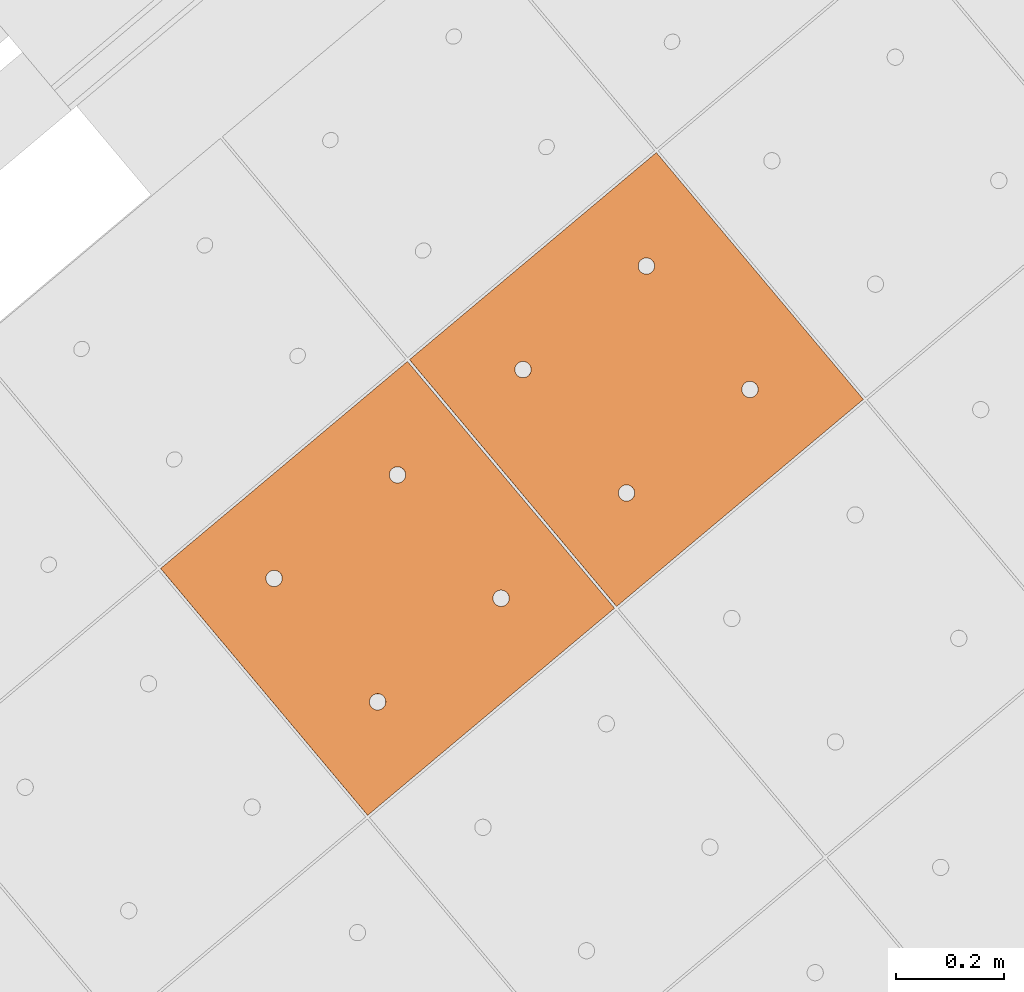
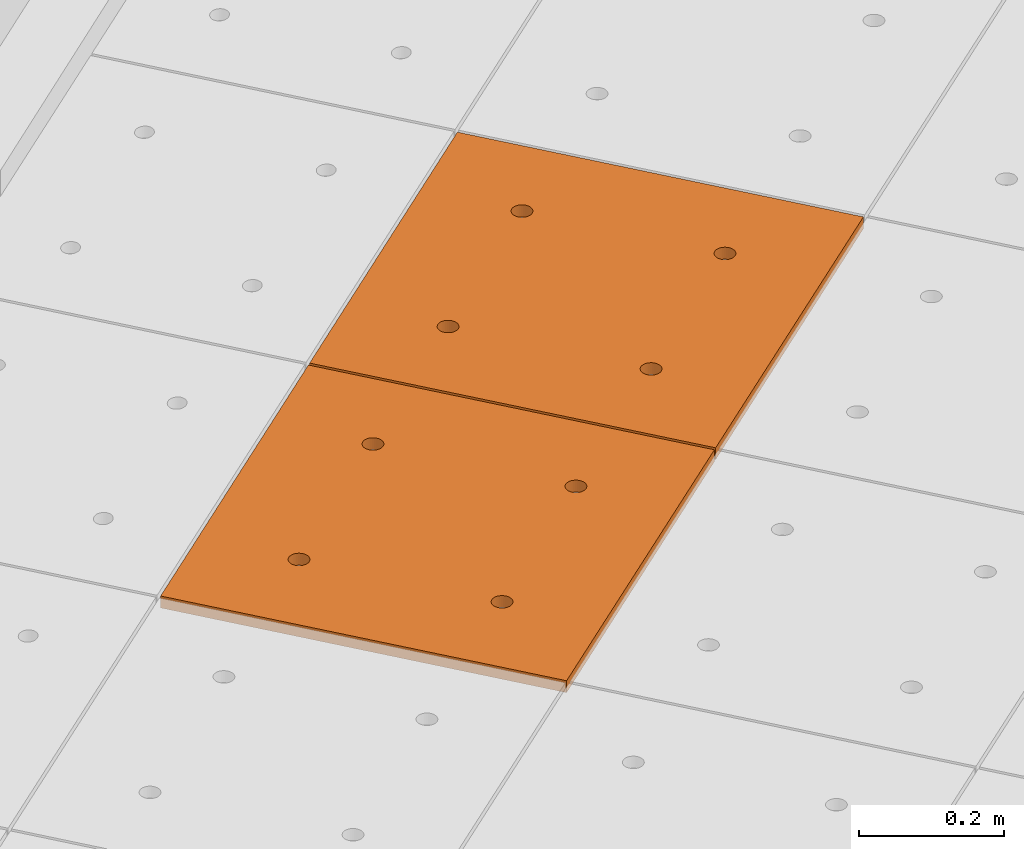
# One storey, part 176 of 338: 2 proxies, 1 element without a shape of its own.
"""IFC2X3 building model written with IfcOpenShell, lengths in millimetres."""

import ifcopenshell
import ifcopenshell.guid

model = None  # the IFC model being written
_history = None  # IfcOwnerHistory: only IFC2X3 demands one
_inside = {}  # id of a spatial element -> (the spatial element, [elements in it])
_under = {}  # id of a project, library or spatial element -> (it, [spatial elements below it])
_declared = {}  # id of a project -> (the project, [libraries it declares])
_typed = {}  # id of a type object -> (the type object, [elements of that type])
_made_of = {}  # id of a material, layer set ... -> (it, [elements and type objects made of it])


def new_model(schema):
    """Start an empty IFC model of exactly this schema.

    Asked for "IFC4X3", IfcOpenShell would pick the latest addendum, in which some entities
    have other attributes; the version numbers below select the first issue.
    IFC2X3 requires an IfcOwnerHistory on every rooted entity: one is made here for all.
    """
    global model, _history
    if schema == "IFC4X3":
        model = ifcopenshell.file(schema_version=(4, 3, 0, 0))
    else:
        model = ifcopenshell.file(schema=schema)
    _inside.clear()
    _under.clear()
    _declared.clear()
    _typed.clear()
    _made_of.clear()
    _history = None
    if model.schema == "IFC2X3":
        org = make("IfcOrganization", Name="unknown")
        user = make(
            "IfcPersonAndOrganization",
            ThePerson=make("IfcPerson", FamilyName="unknown"),
            TheOrganization=org,
        )
        app = make(
            "IfcApplication",
            ApplicationDeveloper=org,
            Version="unknown",
            ApplicationFullName="unknown",
            ApplicationIdentifier="unknown",
        )
        _history = make(
            "IfcOwnerHistory",
            OwningUser=user,
            OwningApplication=app,
            ChangeAction="ADDED",
            CreationDate=0,
        )
    return model


def make(cls, **values):
    """One entity of the class cls with the attributes given. An attribute that is None is left unset."""
    return model.create_entity(
        cls, **{name: value for name, value in values.items() if value is not None}
    )


def entity(cls, *values):
    """Any entity or typed value of the class cls, its attributes in the order of the schema. None: left unset."""
    e = model.create_entity(cls)
    for i, value in enumerate(values):
        if value is not None:
            e[i] = value
    return e


def rooted(cls, **values):
    """An entity with a GlobalId (a new one), such as an element, a storey or a relation."""
    return make(cls, GlobalId=ifcopenshell.guid.new(), OwnerHistory=_history, **values)


def si_unit(unit_type, name, prefix=None):
    """IfcSIUnit, for example si_unit("LENGTHUNIT", "METRE", prefix="MILLI")."""
    return make("IfcSIUnit", UnitType=unit_type, Prefix=prefix, Name=name)


def converted_unit(unit_type, name, factor, base, dimensions=None, offset=None):
    """IfcConversionBasedUnit, such as the inch: factor (a typed value) times the base unit."""
    return make(
        "IfcConversionBasedUnit"
        if offset is None
        else "IfcConversionBasedUnitWithOffset",
        ConversionOffset=offset,
        Dimensions=None
        if dimensions is None
        else entity("IfcDimensionalExponents", *dimensions),
        UnitType=unit_type,
        Name=name,
        ConversionFactor=make(
            "IfcMeasureWithUnit", ValueComponent=factor, UnitComponent=base
        ),
    )


def derived_unit(unit_type, elements):
    """IfcDerivedUnit: a product of units, each with its exponent."""
    return make(
        "IfcDerivedUnit",
        Elements=[
            make("IfcDerivedUnitElement", Unit=unit, Exponent=power)
            for unit, power in elements
        ],
        UnitType=unit_type,
    )


def money_unit(currency):
    """IfcMonetaryUnit."""
    return make("IfcMonetaryUnit", Currency=currency)


def assignment(units):
    """IfcUnitAssignment: the units of a project."""
    return None if units is None else make("IfcUnitAssignment", Units=units)


def point(xyz):
    """IfcCartesianPoint."""
    return None if xyz is None else make("IfcCartesianPoint", Coordinates=xyz)


def direction(xyz):
    """IfcDirection."""
    return None if xyz is None else make("IfcDirection", DirectionRatios=xyz)


def frame(location, z_axis=None, x_axis=None):
    """IfcAxis2Placement3D, a coordinate frame: its origin and axes. An axis left out is left unset."""
    return make(
        "IfcAxis2Placement3D",
        Location=point(location),
        Axis=direction(z_axis),
        RefDirection=direction(x_axis),
    )


def origin_with_axes():
    """The frame at (0, 0, 0) with the z axis (0, 0, 1) and the x axis (1, 0, 0) written out."""
    return frame((0.0, 0.0, 0.0), z_axis=(0.0, 0.0, 1.0), x_axis=(1.0, 0.0, 0.0))


def place(relative_to, where):
    """IfcLocalPlacement: puts the frame where relative to a parent placement (None: the world)."""
    return make(
        "IfcLocalPlacement", PlacementRelTo=relative_to, RelativePlacement=where
    )


def context(
    kind, dimensions, precision=None, world=None, true_north=None, identifier=None
):
    """IfcGeometricRepresentationContext, for example the 3D "Model" context."""
    return make(
        "IfcGeometricRepresentationContext",
        ContextIdentifier=identifier,
        ContextType=kind,
        CoordinateSpaceDimension=dimensions,
        Precision=precision,
        WorldCoordinateSystem=world,
        TrueNorth=true_north,
    )


def subcontext(parent, identifier, kind, view, scale=None):
    """IfcGeometricRepresentationSubContext, for example "Body" below "Model"."""
    return make(
        "IfcGeometricRepresentationSubContext",
        ContextIdentifier=identifier,
        ContextType=kind,
        ParentContext=parent,
        TargetScale=scale,
        TargetView=view,
    )


def project(units=None, contexts=None):
    """IfcProject with its units and contexts."""
    return rooted(
        "IfcProject",
        Name="project",
        RepresentationContexts=contexts,
        UnitsInContext=assignment(units),
    )


def spatial(cls, under=None, at=None, **own):
    """A site, building, storey or space (cls), placed at a placement, below another one or the project."""
    s = rooted(cls, ObjectPlacement=at, **own)
    if under is not None:
        _under.setdefault(under.id(), (under, []))[1].append(s)
    return s


def faces_of(points, faces, orient=None, outer=None):
    """IfcFace entities. A face is a list of loops; a loop is a list of indices into points, from 0.

    orient and outer hold one flag for each loop. By default every Orientation is true, the
    first loop of a face is its IfcFaceOuterBound and the others are IfcFaceBound.
    """
    made = []
    for i, loops in enumerate(faces):
        bounds = []
        for j, loop in enumerate(loops):
            is_outer = j == 0 if outer is None else outer[i][j]
            bounds.append(
                make(
                    "IfcFaceOuterBound" if is_outer else "IfcFaceBound",
                    Bound=make("IfcPolyLoop", Polygon=[points[k] for k in loop]),
                    Orientation=True if orient is None else orient[i][j],
                )
            )
        made.append(make("IfcFace", Bounds=bounds))
    return made


def faceted_brep(points, faces, orient=None, outer=None, voids=None):
    """IfcFacetedBrep: a solid bounded by flat faces; with voids (closed shells), ...WithVoids."""
    shared = [point(p) for p in points]
    hull = make("IfcClosedShell", CfsFaces=faces_of(shared, faces, orient, outer))
    if voids is None:
        return make("IfcFacetedBrep", Outer=hull)
    return make(
        "IfcFacetedBrepWithVoids",
        Outer=hull,
        Voids=[
            make(cls, CfsFaces=faces_of(shared, fs, o, b)) for cls, fs, o, b in voids
        ],
    )


def shape(context_of_items, identifier, shape_type, items):
    """IfcShapeRepresentation: the items that make up one representation, for example the "Body"."""
    return make(
        "IfcShapeRepresentation",
        ContextOfItems=context_of_items,
        RepresentationIdentifier=identifier,
        RepresentationType=shape_type,
        Items=items,
    )


def source(mapping_origin, context_of_items, identifier, shape_type, items):
    """IfcRepresentationMap: a shape defined once, which mapped items show again and again."""
    return make(
        "IfcRepresentationMap",
        MappingOrigin=mapping_origin,
        MappedRepresentation=shape(context_of_items, identifier, shape_type, items),
    )


def transform(
    local_origin,
    x_axis=None,
    y_axis=None,
    z_axis=None,
    scale=None,
    scale2=None,
    scale3=None,
    uniform=True,
):
    """IfcCartesianTransformationOperator3D, or its non-uniform kind. x_axis, y_axis, z_axis: its Axis1, 2, 3."""
    if uniform:
        return make(
            "IfcCartesianTransformationOperator3D",
            Axis1=direction(x_axis),
            Axis2=direction(y_axis),
            LocalOrigin=point(local_origin),
            Scale=scale,
            Axis3=direction(z_axis),
        )
    return make(
        "IfcCartesianTransformationOperator3DnonUniform",
        Axis1=direction(x_axis),
        Axis2=direction(y_axis),
        LocalOrigin=point(local_origin),
        Scale=scale,
        Axis3=direction(z_axis),
        Scale2=scale2,
        Scale3=scale3,
    )


def mapped(mapping_source, mapping_target):
    """IfcMappedItem: shows the shape of a source again, moved by a transform."""
    return make(
        "IfcMappedItem", MappingSource=mapping_source, MappingTarget=mapping_target
    )


def material(Name=None, Category=None):
    """IfcMaterial."""
    return make("IfcMaterial", Name=Name, Category=Category)


def made_of(thing, what):
    """Note that an element or type object is made of a material, layer set ...; save() writes the relation."""
    if what is not None:
        _made_of.setdefault(what.id(), (what, []))[1].append(thing)
    return thing


def type_object(cls, material=None, **own):
    """A type object (cls), such as IfcWallType, which elements share."""
    return made_of(rooted(cls, **own), material)


def type_shapes(of_type, sources):
    """Give a type object the sources (RepresentationMaps) that its elements show as mapped items."""
    of_type.RepresentationMaps = sources


def element(
    cls,
    number,
    at=None,
    inside=None,
    cuts=None,
    type_object=None,
    material=None,
    context=None,
    identifier="Body",
    shape_type=None,
    held_by="IfcProductDefinitionShape",
    body=None,
    shapes=None,
    **own,
):
    """One element of the class cls, such as IfcWall. Its Tag is "e" and its number.

    at: its placement. inside: the storey or other place that contains it. cuts: it is an
    opening in that element (IfcRelVoidsElement). A single representation is given by context,
    identifier, shape_type and body (its items); several are given by shapes. held_by: the class
    of the entity that holds the representations. save() writes the other relations.
    """
    e = rooted(cls, Tag="e%d" % number, ObjectPlacement=at, **own)
    if body is not None:
        shapes = [shape(context, identifier, shape_type, body)]
    if shapes is not None:
        e.Representation = make(held_by, Representations=shapes)
    if inside is not None:
        _inside.setdefault(inside.id(), (inside, []))[1].append(e)
    if cuts is not None:
        rooted(
            "IfcRelVoidsElement", RelatingBuildingElement=cuts, RelatedOpeningElement=e
        )
    if type_object is not None:
        _typed.setdefault(type_object.id(), (type_object, []))[1].append(e)
    return made_of(e, material)


def aggregate(whole, parts):
    """IfcRelAggregates: a whole, such as a stair, and the parts it consists of."""
    return rooted("IfcRelAggregates", RelatingObject=whole, RelatedObjects=parts)


def save(model, path):
    """Write the relations noted so far, then the file.

    IfcRelAggregates (storeys below a building ...), IfcRelContainedInSpatialStructure (elements
    in a storey), IfcRelDefinesByType, IfcRelAssociatesMaterial and IfcRelDeclares: one each for
    every whole, place, type object, material and project.
    """
    for whole, parts in _under.values():
        aggregate(whole, parts)
    for where, things in _inside.values():
        rooted(
            "IfcRelContainedInSpatialStructure",
            RelatedElements=things,
            RelatingStructure=where,
        )
    for kind, things in _typed.values():
        rooted("IfcRelDefinesByType", RelatedObjects=things, RelatingType=kind)
    for what, things in _made_of.values():
        rooted("IfcRelAssociatesMaterial", RelatedObjects=things, RelatingMaterial=what)
    for by, libraries in _declared.values():
        rooted("IfcRelDeclares", RelatingContext=by, RelatedDefinitions=libraries)
    model.write(path)


model = new_model("IFC2X3")

# Units and contexts
model_context = context("Model", 3, precision=0.01, world=origin_with_axes(), true_north=direction((0.0, 1.0)))
plan_context = context("Plan", 3, precision=0.01, world=origin_with_axes(), true_north=direction((0.0, 1.0)))
body_context = subcontext(model_context, "Body", "Model", "MODEL_VIEW")
ifc_project = project(units=[si_unit("LENGTHUNIT", "METRE", prefix="MILLI"), si_unit("AREAUNIT", "SQUARE_METRE"), si_unit("VOLUMEUNIT", "CUBIC_METRE"), converted_unit("PLANEANGLEUNIT", "DEGREE", entity("IfcPlaneAngleMeasure", 0.0174532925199), si_unit("PLANEANGLEUNIT", "RADIAN"), dimensions=[0, 0, 0, 0, 0, 0, 0]), money_unit("EUR"), converted_unit("TIMEUNIT", "Year", entity("IfcTimeMeasure", 31556926.0), si_unit("TIMEUNIT", "SECOND"), dimensions=[0, 0, 1, 0, 0, 0, 0]), si_unit("MASSUNIT", "GRAM", prefix="KILO"), si_unit("THERMODYNAMICTEMPERATUREUNIT", "DEGREE_CELSIUS"), si_unit("LUMINOUSINTENSITYUNIT", "LUMEN"), si_unit("ENERGYUNIT", "JOULE", prefix="MEGA"), derived_unit("THERMALCONDUCTANCEUNIT", [(si_unit("POWERUNIT", "WATT"), 1), (si_unit("LENGTHUNIT", "METRE"), -1), (si_unit("THERMODYNAMICTEMPERATUREUNIT", "KELVIN"), -1)]), derived_unit("SPECIFICHEATCAPACITYUNIT", [(si_unit("ENERGYUNIT", "JOULE"), 1), (si_unit("MASSUNIT", "GRAM", prefix="KILO"), -1), (si_unit("THERMODYNAMICTEMPERATUREUNIT", "KELVIN"), -1)]), derived_unit("MASSDENSITYUNIT", [(si_unit("MASSUNIT", "GRAM", prefix="KILO"), 1), (si_unit("VOLUMEUNIT", "CUBIC_METRE"), -1)])], contexts=[model_context, plan_context])

# Site, building, storey
site_placement = place(None, origin_with_axes())
site = spatial("IfcSite", under=ifc_project, at=site_placement, Name="Fortuinstraat Woensdrecht", CompositionType="ELEMENT")
building_placement = place(site_placement, origin_with_axes())
building = spatial("IfcBuilding", under=site, at=building_placement, Name="IKC Fortuna", CompositionType="ELEMENT")
storey_placement = place(building_placement, origin_with_axes())
storey = spatial("IfcBuildingStorey", under=building, at=storey_placement, Name="00 begane grond", CompositionType="ELEMENT", Elevation=0.0)

# Covering, proxies
covering_type = type_object("IfcCoveringType", Name="Curtain Wall Type", PredefinedType="CEILING")
covering_placement = place(storey_placement, frame((15863.124366, 4456.31398675, 4619.99995334), z_axis=(0.0, 0.0, 1.0), x_axis=(1.0, 0.0, 0.0)))
covering = element("IfcCovering", 1, at=covering_placement, inside=storey, type_object=covering_type, Name="45_Plafondafwerking_P01", PredefinedType="CEILING")
ifc_material = material(Name="Gipsplaat")
building_element_proxy_type = type_object("IfcBuildingElementProxyType", Name="Main Panel 600 x 600 x 20", PredefinedType="NOTDEFINED")
shared_shape = source(origin_with_axes(), body_context, "Body", "Brep", [
    faceted_brep([(2.50000262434, 2.50000269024, -10.0), (299.999999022, 2.50000269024, -10.0), (299.999999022, 2.50000269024, 10.0), (2.50000262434, 2.50000269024, 10.0), (2.50000262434, 300.000003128, -10.0), (2.50000262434, 597.500003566, -10.0), (299.999999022, 597.500003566, -10.0), (597.499995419, 597.500003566, -10.0), (597.499995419, 300.000003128, -10.0), (597.499995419, 2.50000269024, -10.0), (166.250000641, 450.062333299, -10.0), (165.794233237, 452.647118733, -10.0), (164.896546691, 455.113492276, -10.0), (163.584216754, 457.386514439, -10.0), (161.897117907, 459.397120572, -10.0), (159.886511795, 461.084219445, -10.0), (157.613489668, 462.396549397, -10.0), (155.147116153, 463.294235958, -10.0), (152.56233076, 463.750003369, -10.0), (149.937670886, 463.750003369, -10.0), (147.352885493, 463.294235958, -10.0), (144.886511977, 462.396549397, -10.0), (142.61348985, 461.084219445, -10.0), (140.602883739, 459.397120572, -10.0), (138.915784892, 457.386514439, -10.0), (137.603454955, 455.113492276, -10.0), (136.705768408, 452.647118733, -10.0), (136.250001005, 450.062333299, -10.0), (136.250001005, 448.750003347, -10.0), (136.250001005, 447.437673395, -10.0), (136.705768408, 444.852887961, -10.0), (137.603454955, 442.386514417, -10.0), (138.915784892, 440.113492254, -10.0), (140.602883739, 438.102886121, -10.0), (142.61348985, 436.415787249, -10.0), (144.886511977, 435.103457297, -10.0), (147.352885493, 434.205770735, -10.0), (149.937670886, 433.750003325, -10.0), (152.56233076, 433.750003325, -10.0), (155.147116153, 434.205770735, -10.0), (157.613489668, 435.103457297, -10.0), (159.886511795, 436.415787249, -10.0), (161.897117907, 438.102886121, -10.0), (163.584216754, 440.113492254, -10.0), (164.896546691, 442.386514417, -10.0), (165.794233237, 444.852887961, -10.0), (166.250000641, 447.437673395, -10.0), (463.749997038, 450.062333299, -10.0), (463.294229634, 452.647118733, -10.0), (462.396543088, 455.113492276, -10.0), (461.084213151, 457.386514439, -10.0), (459.397114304, 459.397120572, -10.0), (457.386508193, 461.084219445, -10.0), (455.113486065, 462.396549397, -10.0), (452.64711255, 463.294235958, -10.0), (450.062327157, 463.750003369, -10.0), (447.437667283, 463.750003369, -10.0), (444.85288189, 463.294235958, -10.0), (442.386508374, 462.396549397, -10.0), (440.113486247, 461.084219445, -10.0), (438.102880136, 459.397120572, -10.0), (436.415781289, 457.386514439, -10.0), (435.103451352, 455.113492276, -10.0), (434.205764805, 452.647118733, -10.0), (433.749997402, 450.062333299, -10.0), (433.749997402, 448.750003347, -10.0), (433.749997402, 447.437673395, -10.0), (434.205764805, 444.852887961, -10.0), (435.103451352, 442.386514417, -10.0), (436.415781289, 440.113492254, -10.0), (438.102880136, 438.102886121, -10.0), (440.113486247, 436.415787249, -10.0), (442.386508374, 435.103457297, -10.0), (444.85288189, 434.205770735, -10.0), (447.437667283, 433.750003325, -10.0), (450.062327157, 433.750003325, -10.0), (452.64711255, 434.205770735, -10.0), (455.113486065, 435.103457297, -10.0), (457.386508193, 436.415787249, -10.0), (459.397114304, 438.102886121, -10.0), (461.084213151, 440.113492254, -10.0), (462.396543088, 442.386514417, -10.0), (463.294229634, 444.852887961, -10.0), (463.749997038, 447.437673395, -10.0), (463.749997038, 152.562332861, -10.0), (463.294229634, 155.147118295, -10.0), (462.396543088, 157.613491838, -10.0), (461.084213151, 159.886514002, -10.0), (459.397114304, 161.897120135, -10.0), (457.386508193, 163.584219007, -10.0), (455.113486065, 164.896548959, -10.0), (452.64711255, 165.79423552, -10.0), (450.062327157, 166.250002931, -10.0), (447.437667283, 166.250002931, -10.0), (444.85288189, 165.79423552, -10.0), (442.386508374, 164.896548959, -10.0), (440.113486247, 163.584219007, -10.0), (438.102880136, 161.897120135, -10.0), (436.415781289, 159.886514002, -10.0), (435.103451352, 157.613491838, -10.0), (434.205764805, 155.147118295, -10.0), (433.749997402, 152.562332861, -10.0), (433.749997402, 151.250002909, -10.0), (433.749997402, 149.937672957, -10.0), (434.205764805, 147.352887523, -10.0), (435.103451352, 144.88651398, -10.0), (436.415781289, 142.613491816, -10.0), (438.102880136, 140.602885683, -10.0), (440.113486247, 138.915786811, -10.0), (442.386508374, 137.603456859, -10.0), (444.85288189, 136.705770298, -10.0), (447.437667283, 136.250002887, -10.0), (450.062327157, 136.250002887, -10.0), (452.64711255, 136.705770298, -10.0), (455.113486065, 137.603456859, -10.0), (457.386508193, 138.915786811, -10.0), (459.397114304, 140.602885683, -10.0), (461.084213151, 142.613491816, -10.0), (462.396543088, 144.88651398, -10.0), (463.294229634, 147.352887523, -10.0), (463.749997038, 149.937672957, -10.0), (166.250000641, 152.562332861, -10.0), (165.794233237, 155.147118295, -10.0), (164.896546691, 157.613491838, -10.0), (163.584216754, 159.886514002, -10.0), (161.897117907, 161.897120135, -10.0), (159.886511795, 163.584219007, -10.0), (157.613489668, 164.896548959, -10.0), (155.147116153, 165.79423552, -10.0), (152.56233076, 166.250002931, -10.0), (149.937670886, 166.250002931, -10.0), (147.352885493, 165.79423552, -10.0), (144.886511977, 164.896548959, -10.0), (142.61348985, 163.584219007, -10.0), (140.602883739, 161.897120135, -10.0), (138.915784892, 159.886514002, -10.0), (137.603454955, 157.613491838, -10.0), (136.705768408, 155.147118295, -10.0), (136.250001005, 152.562332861, -10.0), (136.250001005, 151.250002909, -10.0), (136.250001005, 149.937672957, -10.0), (136.705768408, 147.352887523, -10.0), (137.603454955, 144.88651398, -10.0), (138.915784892, 142.613491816, -10.0), (140.602883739, 140.602885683, -10.0), (142.61348985, 138.915786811, -10.0), (144.886511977, 137.603456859, -10.0), (147.352885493, 136.705770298, -10.0), (149.937670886, 136.250002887, -10.0), (152.56233076, 136.250002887, -10.0), (155.147116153, 136.705770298, -10.0), (157.613489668, 137.603456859, -10.0), (159.886511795, 138.915786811, -10.0), (161.897117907, 140.602885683, -10.0), (163.584216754, 142.613491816, -10.0), (164.896546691, 144.88651398, -10.0), (165.794233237, 147.352887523, -10.0), (166.250000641, 149.937672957, -10.0), (597.499995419, 2.50000269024, 10.0), (597.499995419, 300.000003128, 10.0), (597.499995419, 597.500003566, 10.0), (299.999999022, 597.500003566, 10.0), (2.50000262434, 597.500003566, 10.0), (2.50000262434, 300.000003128, 10.0), (166.250000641, 450.062333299, 10.0), (166.250000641, 447.437673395, 10.0), (165.794233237, 444.852887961, 10.0), (164.896546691, 442.386514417, 10.0), (163.584216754, 440.113492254, 10.0), (161.897117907, 438.102886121, 10.0), (159.886511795, 436.415787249, 10.0), (157.613489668, 435.103457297, 10.0), (155.147116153, 434.205770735, 10.0), (152.56233076, 433.750003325, 10.0), (149.937670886, 433.750003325, 10.0), (147.352885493, 434.205770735, 10.0), (144.886511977, 435.103457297, 10.0), (142.61348985, 436.415787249, 10.0), (140.602883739, 438.102886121, 10.0), (138.915784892, 440.113492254, 10.0), (137.603454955, 442.386514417, 10.0), (136.705768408, 444.852887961, 10.0), (136.250001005, 447.437673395, 10.0), (136.250001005, 448.750003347, 10.0), (136.250001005, 450.062333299, 10.0), (136.705768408, 452.647118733, 10.0), (137.603454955, 455.113492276, 10.0), (138.915784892, 457.386514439, 10.0), (140.602883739, 459.397120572, 10.0), (142.61348985, 461.084219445, 10.0), (144.886511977, 462.396549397, 10.0), (147.352885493, 463.294235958, 10.0), (149.937670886, 463.750003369, 10.0), (152.56233076, 463.750003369, 10.0), (155.147116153, 463.294235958, 10.0), (157.613489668, 462.396549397, 10.0), (159.886511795, 461.084219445, 10.0), (161.897117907, 459.397120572, 10.0), (163.584216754, 457.386514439, 10.0), (164.896546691, 455.113492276, 10.0), (165.794233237, 452.647118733, 10.0), (463.749997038, 450.062333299, 10.0), (463.749997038, 447.437673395, 10.0), (463.294229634, 444.852887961, 10.0), (462.396543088, 442.386514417, 10.0), (461.084213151, 440.113492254, 10.0), (459.397114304, 438.102886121, 10.0), (457.386508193, 436.415787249, 10.0), (455.113486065, 435.103457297, 10.0), (452.64711255, 434.205770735, 10.0), (450.062327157, 433.750003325, 10.0), (447.437667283, 433.750003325, 10.0), (444.85288189, 434.205770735, 10.0), (442.386508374, 435.103457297, 10.0), (440.113486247, 436.415787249, 10.0), (438.102880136, 438.102886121, 10.0), (436.415781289, 440.113492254, 10.0), (435.103451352, 442.386514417, 10.0), (434.205764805, 444.852887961, 10.0), (433.749997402, 447.437673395, 10.0), (433.749997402, 448.750003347, 10.0), (433.749997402, 450.062333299, 10.0), (434.205764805, 452.647118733, 10.0), (435.103451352, 455.113492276, 10.0), (436.415781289, 457.386514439, 10.0), (438.102880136, 459.397120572, 10.0), (440.113486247, 461.084219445, 10.0), (442.386508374, 462.396549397, 10.0), (444.85288189, 463.294235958, 10.0), (447.437667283, 463.750003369, 10.0), (450.062327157, 463.750003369, 10.0), (452.64711255, 463.294235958, 10.0), (455.113486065, 462.396549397, 10.0), (457.386508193, 461.084219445, 10.0), (459.397114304, 459.397120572, 10.0), (461.084213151, 457.386514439, 10.0), (462.396543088, 455.113492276, 10.0), (463.294229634, 452.647118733, 10.0), (463.749997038, 152.562332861, 10.0), (463.749997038, 149.937672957, 10.0), (463.294229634, 147.352887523, 10.0), (462.396543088, 144.88651398, 10.0), (461.084213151, 142.613491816, 10.0), (459.397114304, 140.602885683, 10.0), (457.386508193, 138.915786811, 10.0), (455.113486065, 137.603456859, 10.0), (452.64711255, 136.705770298, 10.0), (450.062327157, 136.250002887, 10.0), (447.437667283, 136.250002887, 10.0), (444.85288189, 136.705770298, 10.0), (442.386508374, 137.603456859, 10.0), (440.113486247, 138.915786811, 10.0), (438.102880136, 140.602885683, 10.0), (436.415781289, 142.613491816, 10.0), (435.103451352, 144.88651398, 10.0), (434.205764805, 147.352887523, 10.0), (433.749997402, 149.937672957, 10.0), (433.749997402, 151.250002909, 10.0), (433.749997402, 152.562332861, 10.0), (434.205764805, 155.147118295, 10.0), (435.103451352, 157.613491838, 10.0), (436.415781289, 159.886514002, 10.0), (438.102880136, 161.897120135, 10.0), (440.113486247, 163.584219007, 10.0), (442.386508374, 164.896548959, 10.0), (444.85288189, 165.79423552, 10.0), (447.437667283, 166.250002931, 10.0), (450.062327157, 166.250002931, 10.0), (452.64711255, 165.79423552, 10.0), (455.113486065, 164.896548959, 10.0), (457.386508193, 163.584219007, 10.0), (459.397114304, 161.897120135, 10.0), (461.084213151, 159.886514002, 10.0), (462.396543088, 157.613491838, 10.0), (463.294229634, 155.147118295, 10.0), (166.250000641, 152.562332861, 10.0), (166.250000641, 149.937672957, 10.0), (165.794233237, 147.352887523, 10.0), (164.896546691, 144.88651398, 10.0), (163.584216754, 142.613491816, 10.0), (161.897117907, 140.602885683, 10.0), (159.886511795, 138.915786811, 10.0), (157.613489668, 137.603456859, 10.0), (155.147116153, 136.705770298, 10.0), (152.56233076, 136.250002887, 10.0), (149.937670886, 136.250002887, 10.0), (147.352885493, 136.705770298, 10.0), (144.886511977, 137.603456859, 10.0), (142.61348985, 138.915786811, 10.0), (140.602883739, 140.602885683, 10.0), (138.915784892, 142.613491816, 10.0), (137.603454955, 144.88651398, 10.0), (136.705768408, 147.352887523, 10.0), (136.250001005, 149.937672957, 10.0), (136.250001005, 151.250002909, 10.0), (136.250001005, 152.562332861, 10.0), (136.705768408, 155.147118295, 10.0), (137.603454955, 157.613491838, 10.0), (138.915784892, 159.886514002, 10.0), (140.602883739, 161.897120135, 10.0), (142.61348985, 163.584219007, 10.0), (144.886511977, 164.896548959, 10.0), (147.352885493, 165.79423552, 10.0), (149.937670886, 166.250002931, 10.0), (152.56233076, 166.250002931, 10.0), (155.147116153, 165.79423552, 10.0), (157.613489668, 164.896548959, 10.0), (159.886511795, 163.584219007, 10.0), (161.897117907, 161.897120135, 10.0), (163.584216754, 159.886514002, 10.0), (164.896546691, 157.613491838, 10.0), (165.794233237, 155.147118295, 10.0)], [[[0, 1, 2, 3]], [[0, 4, 5, 6, 7, 8, 9, 1], [10, 11, 12, 13, 14, 15, 16, 17, 18, 19, 20, 21, 22, 23, 24, 25, 26, 27, 28, 29, 30, 31, 32, 33, 34, 35, 36, 37, 38, 39, 40, 41, 42, 43, 44, 45, 46], [47, 48, 49, 50, 51, 52, 53, 54, 55, 56, 57, 58, 59, 60, 61, 62, 63, 64, 65, 66, 67, 68, 69, 70, 71, 72, 73, 74, 75, 76, 77, 78, 79, 80, 81, 82, 83], [84, 85, 86, 87, 88, 89, 90, 91, 92, 93, 94, 95, 96, 97, 98, 99, 100, 101, 102, 103, 104, 105, 106, 107, 108, 109, 110, 111, 112, 113, 114, 115, 116, 117, 118, 119, 120], [121, 122, 123, 124, 125, 126, 127, 128, 129, 130, 131, 132, 133, 134, 135, 136, 137, 138, 139, 140, 141, 142, 143, 144, 145, 146, 147, 148, 149, 150, 151, 152, 153, 154, 155, 156, 157]], [[1, 9, 158, 2]], [[3, 2, 158, 159, 160, 161, 162, 163], [164, 165, 166, 167, 168, 169, 170, 171, 172, 173, 174, 175, 176, 177, 178, 179, 180, 181, 182, 183, 184, 185, 186, 187, 188, 189, 190, 191, 192, 193, 194, 195, 196, 197, 198, 199, 200], [201, 202, 203, 204, 205, 206, 207, 208, 209, 210, 211, 212, 213, 214, 215, 216, 217, 218, 219, 220, 221, 222, 223, 224, 225, 226, 227, 228, 229, 230, 231, 232, 233, 234, 235, 236, 237], [238, 239, 240, 241, 242, 243, 244, 245, 246, 247, 248, 249, 250, 251, 252, 253, 254, 255, 256, 257, 258, 259, 260, 261, 262, 263, 264, 265, 266, 267, 268, 269, 270, 271, 272, 273, 274], [275, 276, 277, 278, 279, 280, 281, 282, 283, 284, 285, 286, 287, 288, 289, 290, 291, 292, 293, 294, 295, 296, 297, 298, 299, 300, 301, 302, 303, 304, 305, 306, 307, 308, 309, 310, 311]], [[4, 0, 3, 163]], [[5, 4, 163, 162]], [[6, 5, 162, 161]], [[7, 6, 161, 160]], [[8, 7, 160, 159]], [[9, 8, 159, 158]], [[11, 10, 164, 200]], [[12, 11, 200, 199]], [[13, 12, 199, 198]], [[14, 13, 198, 197]], [[15, 14, 197, 196]], [[16, 15, 196, 195]], [[17, 16, 195, 194]], [[18, 17, 194, 193]], [[19, 18, 193, 192]], [[20, 19, 192, 191]], [[21, 20, 191, 190]], [[22, 21, 190, 189]], [[23, 22, 189, 188]], [[24, 23, 188, 187]], [[25, 24, 187, 186]], [[26, 25, 186, 185]], [[27, 26, 185, 184]], [[28, 27, 184, 183]], [[29, 28, 183, 182]], [[30, 29, 182, 181]], [[31, 30, 181, 180]], [[32, 31, 180, 179]], [[33, 32, 179, 178]], [[34, 33, 178, 177]], [[35, 34, 177, 176]], [[36, 35, 176, 175]], [[37, 36, 175, 174]], [[38, 37, 174, 173]], [[39, 38, 173, 172]], [[40, 39, 172, 171]], [[41, 40, 171, 170]], [[42, 41, 170, 169]], [[43, 42, 169, 168]], [[44, 43, 168, 167]], [[45, 44, 167, 166]], [[46, 45, 166, 165]], [[10, 46, 165, 164]], [[48, 47, 201, 237]], [[49, 48, 237, 236]], [[50, 49, 236, 235]], [[51, 50, 235, 234]], [[52, 51, 234, 233]], [[53, 52, 233, 232]], [[54, 53, 232, 231]], [[55, 54, 231, 230]], [[56, 55, 230, 229]], [[57, 56, 229, 228]], [[58, 57, 228, 227]], [[59, 58, 227, 226]], [[60, 59, 226, 225]], [[61, 60, 225, 224]], [[62, 61, 224, 223]], [[63, 62, 223, 222]], [[64, 63, 222, 221]], [[65, 64, 221, 220]], [[66, 65, 220, 219]], [[67, 66, 219, 218]], [[68, 67, 218, 217]], [[69, 68, 217, 216]], [[70, 69, 216, 215]], [[71, 70, 215, 214]], [[72, 71, 214, 213]], [[73, 72, 213, 212]], [[74, 73, 212, 211]], [[75, 74, 211, 210]], [[76, 75, 210, 209]], [[77, 76, 209, 208]], [[78, 77, 208, 207]], [[79, 78, 207, 206]], [[80, 79, 206, 205]], [[81, 80, 205, 204]], [[82, 81, 204, 203]], [[83, 82, 203, 202]], [[47, 83, 202, 201]], [[85, 84, 238, 274]], [[86, 85, 274, 273]], [[87, 86, 273, 272]], [[88, 87, 272, 271]], [[89, 88, 271, 270]], [[90, 89, 270, 269]], [[91, 90, 269, 268]], [[92, 91, 268, 267]], [[93, 92, 267, 266]], [[94, 93, 266, 265]], [[95, 94, 265, 264]], [[96, 95, 264, 263]], [[97, 96, 263, 262]], [[98, 97, 262, 261]], [[99, 98, 261, 260]], [[100, 99, 260, 259]], [[101, 100, 259, 258]], [[102, 101, 258, 257]], [[103, 102, 257, 256]], [[104, 103, 256, 255]], [[105, 104, 255, 254]], [[106, 105, 254, 253]], [[107, 106, 253, 252]], [[108, 107, 252, 251]], [[109, 108, 251, 250]], [[110, 109, 250, 249]], [[111, 110, 249, 248]], [[112, 111, 248, 247]], [[113, 112, 247, 246]], [[114, 113, 246, 245]], [[115, 114, 245, 244]], [[116, 115, 244, 243]], [[117, 116, 243, 242]], [[118, 117, 242, 241]], [[119, 118, 241, 240]], [[120, 119, 240, 239]], [[84, 120, 239, 238]], [[122, 121, 275, 311]], [[123, 122, 311, 310]], [[124, 123, 310, 309]], [[125, 124, 309, 308]], [[126, 125, 308, 307]], [[127, 126, 307, 306]], [[128, 127, 306, 305]], [[129, 128, 305, 304]], [[130, 129, 304, 303]], [[131, 130, 303, 302]], [[132, 131, 302, 301]], [[133, 132, 301, 300]], [[134, 133, 300, 299]], [[135, 134, 299, 298]], [[136, 135, 298, 297]], [[137, 136, 297, 296]], [[138, 137, 296, 295]], [[139, 138, 295, 294]], [[140, 139, 294, 293]], [[141, 140, 293, 292]], [[142, 141, 292, 291]], [[143, 142, 291, 290]], [[144, 143, 290, 289]], [[145, 144, 289, 288]], [[146, 145, 288, 287]], [[147, 146, 287, 286]], [[148, 147, 286, 285]], [[149, 148, 285, 284]], [[150, 149, 284, 283]], [[151, 150, 283, 282]], [[152, 151, 282, 281]], [[153, 152, 281, 280]], [[154, 153, 280, 279]], [[155, 154, 279, 278]], [[156, 155, 278, 277]], [[157, 156, 277, 276]], [[121, 157, 276, 275]]]),
])
type_shapes(building_element_proxy_type, [shared_shape])
proxy_1_placement = place(covering_placement, frame((-4692.64086911, 3544.08099694, 7.03077313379), z_axis=(0.0, 0.0, 1.0), x_axis=(0.642787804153, -0.766044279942, 0.0)))
proxy_1 = element("IfcBuildingElementProxy", 2, at=proxy_1_placement, type_object=building_element_proxy_type, material=ifc_material, Name="__600x946 Rockfon Krios", context=body_context, shape_type="MappedRepresentation", body=[
    mapped(shared_shape, transform((-300.0, 299.995617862, -1.62150043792), x_axis=(0.0, -0.999985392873, 0.00540500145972), y_axis=(1.0, 0.0, 0.0), z_axis=(0.0, 0.00540500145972, 0.999985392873))),
])
proxy_2_placement = place(covering_placement, frame((-5152.26072325, 3158.41394802, 10.2737740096), z_axis=(0.0, 0.0, 1.0), x_axis=(0.642787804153, -0.766044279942, 0.0)))
proxy_2 = element("IfcBuildingElementProxy", 3, at=proxy_2_placement, type_object=building_element_proxy_type, material=ifc_material, Name="__600x947 Rockfon Krios", context=body_context, shape_type="MappedRepresentation", body=[
    mapped(shared_shape, transform((-300.0, 299.995617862, -1.62150043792), x_axis=(0.0, -0.999985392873, 0.00540500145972), y_axis=(1.0, 0.0, 0.0), z_axis=(0.0, 0.00540500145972, 0.999985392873))),
])
aggregate(covering, [proxy_1, proxy_2])

save(model, "model.ifc")
